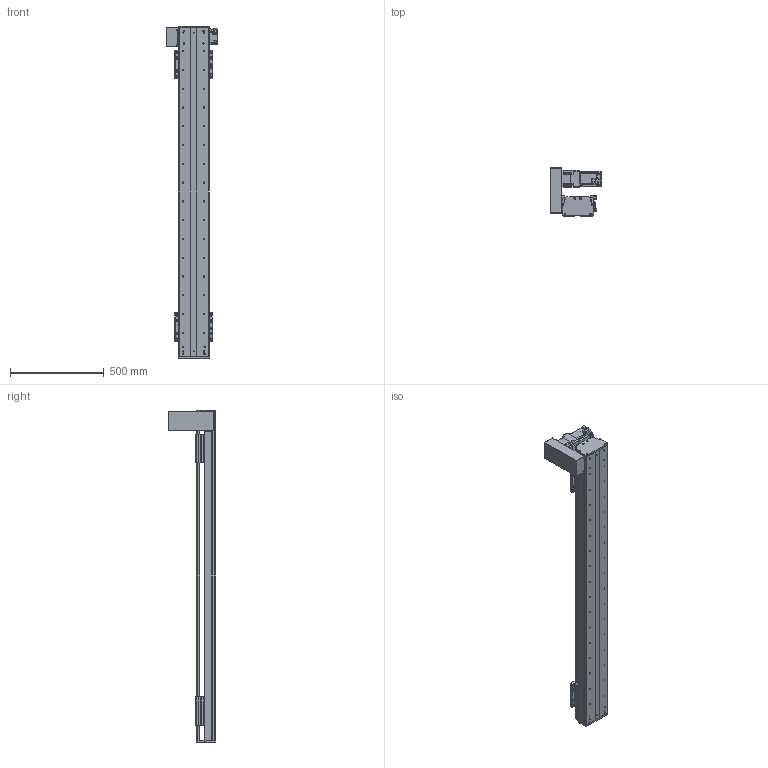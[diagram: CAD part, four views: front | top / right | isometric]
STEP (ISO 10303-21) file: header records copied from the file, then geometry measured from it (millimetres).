
FILE_DESCRIPTION(/* description */ (''),/* implementation_level */ '2;1');
FILE_NAME(/* name */ 'C:\Users\PC\Desktop\3D도면\STEP\DSB165-UL7G-W1400-R.stp',/* time_stamp */ '2018-06-25T15:08:04+09:00',/* author */ ('PC'),/* organization */ (''),/* preprocessor_version */ 'ST-DEVELOPER v16.5',/* originating_system */ 'Autodesk Inventor 2017',/* authorisation */ '');
FILE_SCHEMA (('AUTOMOTIVE_DESIGN { 1 0 10303 214 3 1 1 }'));
Length unit declared in the file: millimetre
Products named in the file (12): DSB165-L; DSR165-BASE_S; hg-kr73_; ab0901-p0401300102; 11-DBS165 BELT COVER; DBS165-COVER; DBS165-COVER_1; DBS165-UP COVER; DSR126-SENSOR DOG; pm-y65_step; SENSOR BRACKET(EE-SX674A); DBS165-TABLE(MSA20S)
Assembly tree (16 placements, depth 2):
  DSB165-L
    DSR165-BASE_S
    hg-kr73_
    ab0901-p0401300102
    11-DBS165 BELT COVER
    DBS165-COVER
    DBS165-COVER_1
    DBS165-UP COVER
    DSR126-SENSOR DOG
    pm-y65_step  x3
    SENSOR BRACKET(EE-SX674A)  x3
    DBS165-TABLE(MSA20S)  x2
Bounding box: 270 x 254 x 1770 mm (x, y, z)
Volume: 10695444.3 mm3; surface area: 2488575.8 mm2
Topology: 17 solids, 22 shells, 1695 faces, 4545 edges, 2994 vertices
Faces by surface type: plane 926, cylinder 633, cone 124, sphere 8, torus 4
Full cylindrical faces by diameter (mm): 2.459 x20, 3.5 x6, 4.134 x42, 4.5 x18, 5 x27, 5.5 x36, 5.9 x4, 6 x8, 6.6 x14, 6.647 x52, 6.8 x1, 7 x4, 7.6 x4, 8 x1, 8.4 x1, 8.5 x24, 8.7 x1, 9.5 x32, 11 x6, 14 x16, 19 x1, 22 x1, 24 x1, 25 x1, 28 x1, 67 x1, 70 x2, 80 x1
Entity records: 36029 total; most frequent: DIRECTION 6380, CARTESIAN_POINT 6163, ORIENTED_EDGE 5590, EDGE_CURVE 2800, AXIS2_PLACEMENT_3D 2360, VERTEX_POINT 2005, EDGE_LOOP 1787, LINE 1660
